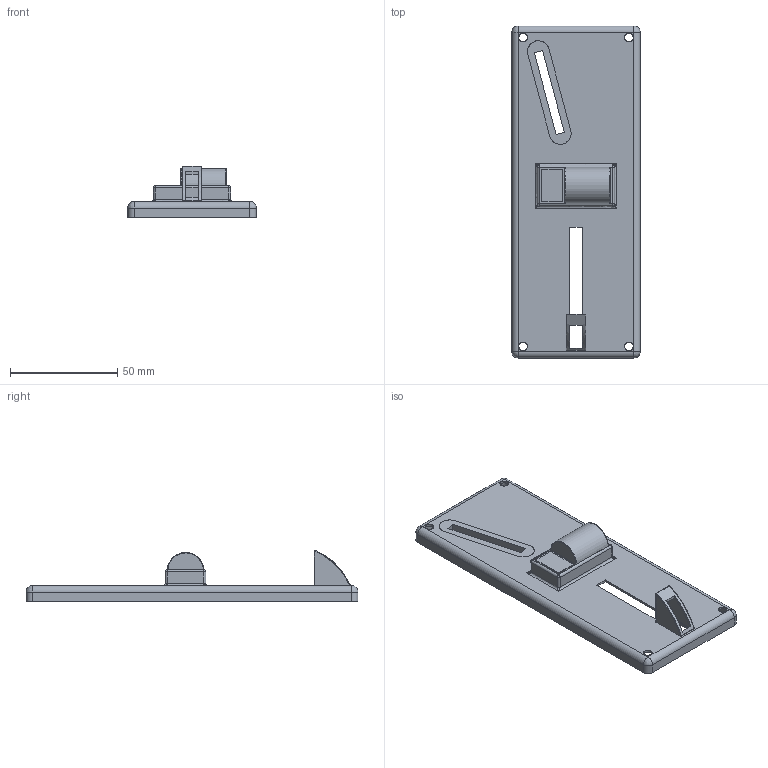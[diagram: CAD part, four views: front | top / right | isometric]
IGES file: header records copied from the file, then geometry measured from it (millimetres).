
Start section: SolidWorks IGES file using analytic representation for surfaces
Global section: file name: E:\2601\coin_acceptor.IGS; native system: SolidWorks 2011; preprocessor: SolidWorks 2011; author: Zeljko; date: 120126.055057; units: millimetre
Bounding box: 60 x 155 x 23.96 mm (x, y, z)
Surface area: 28646.2 mm2 (no closed solid volume)
Topology: 0 solids, 0 shells, 144 faces, 1344 edges, 1325 vertices
Faces by surface type: bspline 73, revolution 71
